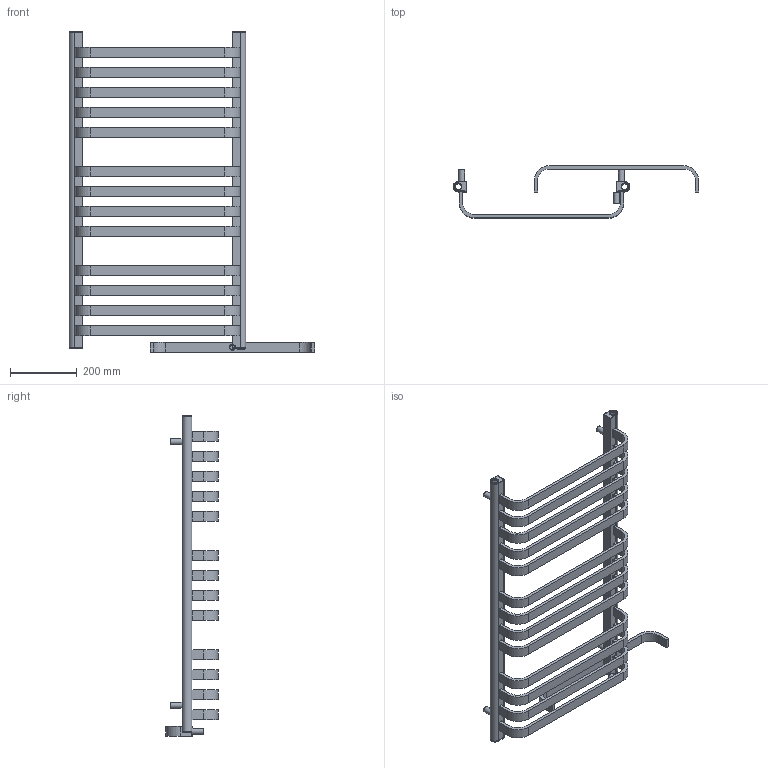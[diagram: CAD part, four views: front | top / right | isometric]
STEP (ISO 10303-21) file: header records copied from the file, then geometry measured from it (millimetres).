
FILE_DESCRIPTION( ( 'Unknown' ), '1' );
FILE_NAME( 'D:/RYSUNKI/RYSUNKI SOLID/SEJWAL/NOWE/2021/AFRICA/AFRICA.stp', 'Unknown', ( 'Unknown' ), ( 'Unknown' ), 'XStep 1.0', 'Unknown', ' ' );
FILE_SCHEMA( ( 'automotive_design' ) );
Length unit declared in the file: millimetre
Products named in the file (6): Assem1; Profil_glowny_lew; Profil_glowny_praw; Profil_10x30x1_2_zew; Dekiel_G1_2; MOCOWANIE
Bounding box: 737 x 158 x 963 mm (x, y, z)
Volume: 3200462.5 mm3; surface area: 1606475.5 mm2
Topology: 28 solids, 28 shells, 519 faces, 1379 edges, 921 vertices
Faces by surface type: plane 420, cylinder 89, torus 10
Full cylindrical faces by diameter (mm): 15 x5, 18 x5, 18.631 x5, 20 x5
Entity records: 5223 total; most frequent: CARTESIAN_POINT 877, ORIENTED_EDGE 836, DIRECTION 800, EDGE_CURVE 418, LINE 390, VECTOR 390, VERTEX_POINT 282, EDGE_LOOP 220
